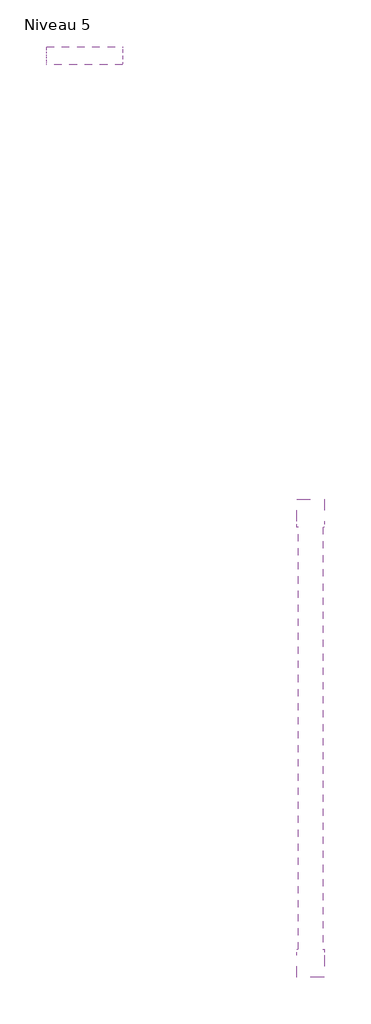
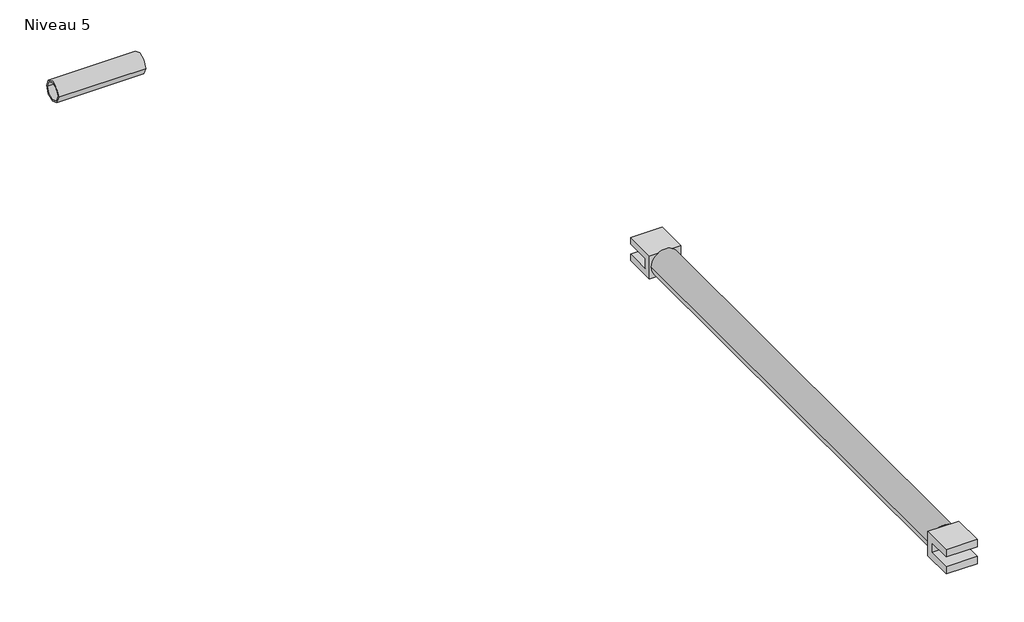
# One storey: 2 proxies.
"""IFC4 building model written with IfcOpenShell, lengths in millimetres."""

from ifc_helpers import new_model, si_unit, origin, place, context, project, spatial, transform, mapped, element, save
from components import generic_models_b355b610, l100_80f0c97a

model = new_model("IFC4")

# Units and contexts
model_context = context("Model", 3, world=origin())
ifc_project = project(units=[si_unit("LENGTHUNIT", "METRE", prefix="MILLI")], contexts=[model_context])

# Site, building, storey
site = spatial("IfcSite", under=ifc_project)
building = spatial("IfcBuilding", under=site)
storey = spatial("IfcBuildingStorey", under=building, Name="Niveau 5", Elevation=0.0)

# Proxies
placement = place(None, origin())
generic_models_shape = generic_models_b355b610(model_context)
element("IfcBuildingElementProxy", 1, Name="Bouchon de protection : Bouchon de protection", ObjectType="Bouchon de protection : Bouchon de protection", at=placement, inside=storey, context=model_context, shape_type="MappedRepresentation", body=[
    mapped(generic_models_shape, transform((189.0011355, -3873.2608464, 5435.7787108), x_axis=(0.0, 1.0, 0.0), y_axis=(-1.0, 0.0, 0.0), z_axis=(0.0, 0.0, 1.0))),
])
l100_shape = l100_80f0c97a(model_context)
element("IfcBuildingElementProxy", 2, Name="MILLS_ACRAM_LISSES : l100", ObjectType="MILLS_ACRAM_LISSES : l100", at=placement, inside=storey, context=model_context, shape_type="MappedRepresentation", body=[
    mapped(l100_shape, transform((929.1382516, -4193.4700293, 5685.0), x_axis=(0.0, 1.0, 0.0), y_axis=(-1.0, 0.0, 0.0), z_axis=(0.0, 0.0, 1.0))),
])

save(model, "model.ifc")
